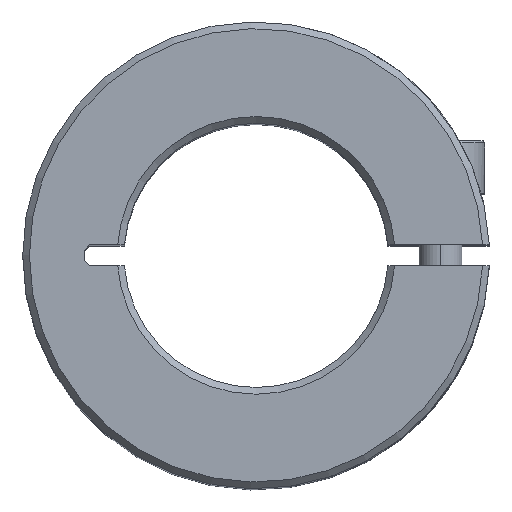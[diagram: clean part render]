
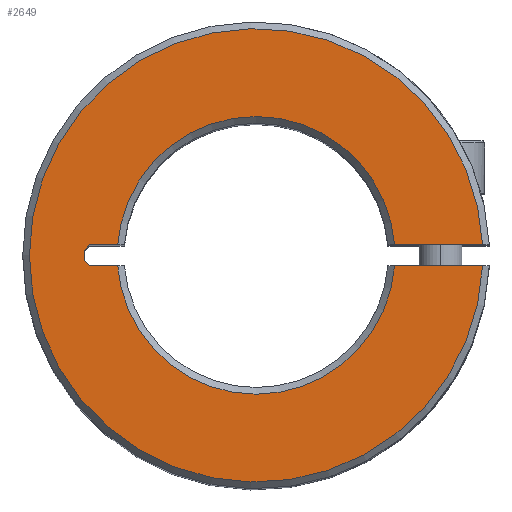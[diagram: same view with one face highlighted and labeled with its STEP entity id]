
A CAD part, top view. The second image highlights one B-rep face of the part: STEP entity #2649.
In plain terms, the highlighted planar face has unit normal (0, 0, 1).
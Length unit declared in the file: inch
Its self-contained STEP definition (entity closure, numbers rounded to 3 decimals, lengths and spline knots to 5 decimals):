
#656=DIRECTION('',(-0.707,0.707,0.));
#657=VECTOR('',#656,0.03315);
#658=CARTESIAN_POINT('',(-0.74487,-0.04688,1.63386));
#659=LINE('',#658,#657);
#660=DIRECTION('',(-1.,0.,0.));
#661=VECTOR('',#660,0.12609);
#662=CARTESIAN_POINT('',(-0.61878,-0.04688,1.63386));
#663=LINE('',#662,#661);
#664=CARTESIAN_POINT('',(0.,0.,1.63386));
#665=DIRECTION('',(0.,0.,-1.));
#666=DIRECTION('',(0.997,-0.076,0.));
#667=AXIS2_PLACEMENT_3D('',#664,#665,#666);
#669=DIRECTION('',(1.,0.,0.));
#670=VECTOR('',#669,0.39344);
#671=CARTESIAN_POINT('',(0.61878,0.04688,1.63386));
#672=LINE('',#671,#670);
#673=CARTESIAN_POINT('',(0.,0.,1.63386));
#674=DIRECTION('',(0.,0.,-1.));
#675=DIRECTION('',(-0.997,0.076,0.));
#676=AXIS2_PLACEMENT_3D('',#673,#674,#675);
#678=DIRECTION('',(1.,0.,0.));
#679=VECTOR('',#678,0.12609);
#680=CARTESIAN_POINT('',(-0.74487,0.04688,1.63386));
#681=LINE('',#680,#679);
#682=DIRECTION('',(0.707,0.707,0.));
#683=VECTOR('',#682,0.03315);
#684=CARTESIAN_POINT('',(-0.76831,0.02344,1.63386));
#685=LINE('',#684,#683);
#686=DIRECTION('',(0.,1.,0.));
#687=VECTOR('',#686,0.04688);
#688=CARTESIAN_POINT('',(-0.76831,-0.02344,1.63386));
#689=LINE('',#688,#687);
#732=CARTESIAN_POINT('',(-0.61878,-0.04688,1.63386));
#811=DIRECTION('',(1.,0.,0.));
#812=VECTOR('',#811,0.39344);
#813=CARTESIAN_POINT('',(0.61878,-0.04688,1.63386));
#814=LINE('',#813,#812);
#853=CARTESIAN_POINT('',(0.,0.,1.63386));
#854=DIRECTION('',(0.,0.,1.));
#855=DIRECTION('',(0.999,0.046,0.));
#856=AXIS2_PLACEMENT_3D('',#853,#854,#855);
#1693=CARTESIAN_POINT('',(0.61878,-0.04688,1.63386));
#1694=CARTESIAN_POINT('',(1.01222,-0.04688,1.63386));
#1695=VERTEX_POINT('',#1693);
#1696=VERTEX_POINT('',#1694);
#1726=CARTESIAN_POINT('',(-0.74487,-0.04688,1.63386));
#1728=VERTEX_POINT('',#1726);
#1731=VERTEX_POINT('',#732);
#1732=CARTESIAN_POINT('',(-0.76831,-0.02344,1.63386));
#1733=VERTEX_POINT('',#1732);
#1734=CARTESIAN_POINT('',(0.61878,0.04688,1.63386));
#1735=CARTESIAN_POINT('',(1.01222,0.04688,1.63386));
#1736=VERTEX_POINT('',#1734);
#1737=VERTEX_POINT('',#1735);
#1738=CARTESIAN_POINT('',(-0.61878,0.04688,1.63386));
#1739=VERTEX_POINT('',#1738);
#1740=CARTESIAN_POINT('',(-0.74487,0.04688,1.63386));
#1741=VERTEX_POINT('',#1740);
#1742=CARTESIAN_POINT('',(-0.76831,0.02344,1.63386));
#1743=VERTEX_POINT('',#1742);
#2624=CARTESIAN_POINT('',(0.,0.,1.63386));
#2625=DIRECTION('',(0.,0.,1.));
#2626=DIRECTION('',(1.,0.,0.));
#2627=AXIS2_PLACEMENT_3D('',#2624,#2625,#2626);
#2628=PLANE('',#2627);
#2630=ORIENTED_EDGE('',*,*,#2629,.F.);
#2632=ORIENTED_EDGE('',*,*,#2631,.F.);
#2634=ORIENTED_EDGE('',*,*,#2633,.F.);
#2636=ORIENTED_EDGE('',*,*,#2635,.T.);
#2638=ORIENTED_EDGE('',*,*,#2637,.F.);
#2639=ORIENTED_EDGE('',*,*,#2447,.F.);
#2641=ORIENTED_EDGE('',*,*,#2640,.F.);
#2642=ORIENTED_EDGE('',*,*,#2603,.F.);
#2644=ORIENTED_EDGE('',*,*,#2643,.F.);
#2646=ORIENTED_EDGE('',*,*,#2645,.F.);
#2647=EDGE_LOOP('',(#2630,#2632,#2634,#2636,#2638,#2639,#2641,#2642,#2644,
#2646));
#2648=FACE_OUTER_BOUND('',#2647,.F.);
#668=CIRCLE('',#667,0.62055);
#677=CIRCLE('',#676,0.62055);
#857=CIRCLE('',#856,1.01331);
#2447=EDGE_CURVE('',#1736,#1737,#672,.T.);
#2603=EDGE_CURVE('',#1741,#1739,#681,.T.);
#2629=EDGE_CURVE('',#1728,#1733,#659,.T.);
#2631=EDGE_CURVE('',#1731,#1728,#663,.T.);
#2633=EDGE_CURVE('',#1695,#1731,#668,.T.);
#2635=EDGE_CURVE('',#1695,#1696,#814,.T.);
#2637=EDGE_CURVE('',#1737,#1696,#857,.T.);
#2640=EDGE_CURVE('',#1739,#1736,#677,.T.);
#2643=EDGE_CURVE('',#1743,#1741,#685,.T.);
#2645=EDGE_CURVE('',#1733,#1743,#689,.T.);
#2649=ADVANCED_FACE('',(#2648),#2628,.T.);
